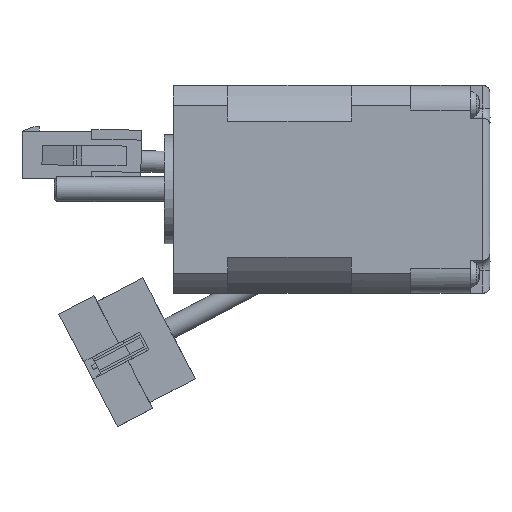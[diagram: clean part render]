
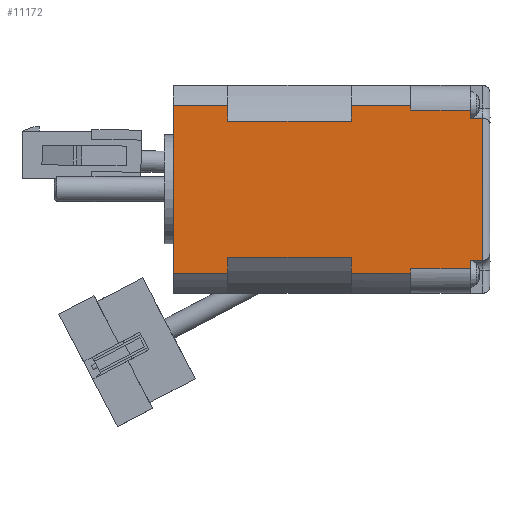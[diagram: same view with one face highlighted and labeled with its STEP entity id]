
A CAD part, front view. The second image highlights one B-rep face of the part: STEP entity #11172.
In plain terms, the highlighted planar face has unit normal (0, -1, 0).
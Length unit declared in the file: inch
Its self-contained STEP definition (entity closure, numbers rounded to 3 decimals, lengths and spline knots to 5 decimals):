
#971=FACE_OUTER_BOUND('',#1743,.T.);
#1743=EDGE_LOOP('',(#9454,#9455,#9456,#9457,#9458,#9459,#9460,#9461,#9462,
#9463,#9464,#9465,#9466,#9467,#9468,#9469,#9470,#9471,#9472,#9473));
#1934=LINE('',#15877,#2933);
#1935=LINE('',#15885,#2934);
#1975=LINE('',#16171,#2974);
#1980=LINE('',#16190,#2979);
#1984=LINE('',#16206,#2983);
#1989=LINE('',#16229,#2988);
#1994=LINE('',#16239,#2993);
#1996=LINE('',#16245,#2995);
#1999=LINE('',#16254,#2998);
#2000=LINE('',#16256,#2999);
#2014=LINE('',#16291,#3013);
#2016=LINE('',#16298,#3015);
#2019=LINE('',#16302,#3018);
#2178=LINE('',#16865,#3177);
#2182=LINE('',#16875,#3181);
#2206=LINE('',#17100,#3205);
#2681=LINE('',#18877,#3680);
#2683=LINE('',#18880,#3682);
#2708=LINE('',#18967,#3707);
#2709=LINE('',#18969,#3708);
#2933=VECTOR('',#12532,0.03821);
#2934=VECTOR('',#12541,0.03821);
#2974=VECTOR('',#12825,0.47244);
#2979=VECTOR('',#12846,0.47244);
#2983=VECTOR('',#12866,0.43307);
#2988=VECTOR('',#12887,0.43307);
#2993=VECTOR('',#12898,1.33626);
#2995=VECTOR('',#12906,0.12615);
#2998=VECTOR('',#12915,0.12615);
#2999=VECTOR('',#12918,0.98425);
#3013=VECTOR('',#12954,0.98425);
#3015=VECTOR('',#12962,0.12615);
#3018=VECTOR('',#12967,0.12615);
#3177=VECTOR('',#13474,0.06299);
#3181=VECTOR('',#13484,0.09843);
#3205=VECTOR('',#13624,0.06299);
#3680=VECTOR('',#15053,0.09843);
#3682=VECTOR('',#15057,1.13386);
#3707=VECTOR('',#15142,0.47244);
#3708=VECTOR('',#15145,0.47244);
#4442=VERTEX_POINT('',#15873);
#4444=VERTEX_POINT('',#15876);
#4446=VERTEX_POINT('',#15881);
#4447=VERTEX_POINT('',#15883);
#4559=VERTEX_POINT('',#16167);
#4564=VERTEX_POINT('',#16187);
#4568=VERTEX_POINT('',#16203);
#4569=VERTEX_POINT('',#16205);
#4578=VERTEX_POINT('',#16227);
#4579=VERTEX_POINT('',#16228);
#4582=VERTEX_POINT('',#16244);
#4584=VERTEX_POINT('',#16250);
#4594=VERTEX_POINT('',#16289);
#4595=VERTEX_POINT('',#16290);
#4728=VERTEX_POINT('',#16862);
#4729=VERTEX_POINT('',#16864);
#4732=VERTEX_POINT('',#16874);
#4776=VERTEX_POINT('',#17097);
#4777=VERTEX_POINT('',#17099);
#5238=VERTEX_POINT('',#18785);
#5490=EDGE_CURVE('',#4444,#4442,#1934,.T.);
#5494=EDGE_CURVE('',#4446,#4447,#1935,.T.);
#5620=EDGE_CURVE('',#4559,#4444,#1975,.T.);
#5630=EDGE_CURVE('',#4564,#4447,#1980,.T.);
#5636=EDGE_CURVE('',#4569,#4568,#1984,.T.);
#5646=EDGE_CURVE('',#4578,#4579,#1989,.T.);
#5653=EDGE_CURVE('',#4569,#4578,#1994,.T.);
#5655=EDGE_CURVE('',#4582,#4564,#1996,.T.);
#5660=EDGE_CURVE('',#4584,#4579,#1999,.T.);
#5661=EDGE_CURVE('',#4584,#4582,#2000,.T.);
#5679=EDGE_CURVE('',#4594,#4595,#2014,.T.);
#5683=EDGE_CURVE('',#4559,#4594,#2016,.T.);
#5686=EDGE_CURVE('',#4568,#4595,#2019,.T.);
#5920=EDGE_CURVE('',#4729,#4728,#2178,.T.);
#5925=EDGE_CURVE('',#4732,#4729,#2182,.T.);
#5992=EDGE_CURVE('',#4777,#4776,#2206,.T.);
#6689=EDGE_CURVE('',#4776,#5238,#2681,.T.);
#6691=EDGE_CURVE('',#5238,#4732,#2683,.T.);
#6731=EDGE_CURVE('',#4728,#4446,#2708,.T.);
#6732=EDGE_CURVE('',#4777,#4442,#2709,.T.);
#9454=ORIENTED_EDGE('',*,*,#6732,.F.);
#9455=ORIENTED_EDGE('',*,*,#5992,.T.);
#9456=ORIENTED_EDGE('',*,*,#6689,.T.);
#9457=ORIENTED_EDGE('',*,*,#6691,.T.);
#9458=ORIENTED_EDGE('',*,*,#5925,.T.);
#9459=ORIENTED_EDGE('',*,*,#5920,.T.);
#9460=ORIENTED_EDGE('',*,*,#6731,.T.);
#9461=ORIENTED_EDGE('',*,*,#5494,.T.);
#9462=ORIENTED_EDGE('',*,*,#5630,.F.);
#9463=ORIENTED_EDGE('',*,*,#5655,.F.);
#9464=ORIENTED_EDGE('',*,*,#5661,.F.);
#9465=ORIENTED_EDGE('',*,*,#5660,.T.);
#9466=ORIENTED_EDGE('',*,*,#5646,.F.);
#9467=ORIENTED_EDGE('',*,*,#5653,.F.);
#9468=ORIENTED_EDGE('',*,*,#5636,.T.);
#9469=ORIENTED_EDGE('',*,*,#5686,.T.);
#9470=ORIENTED_EDGE('',*,*,#5679,.F.);
#9471=ORIENTED_EDGE('',*,*,#5683,.F.);
#9472=ORIENTED_EDGE('',*,*,#5620,.T.);
#9473=ORIENTED_EDGE('',*,*,#5490,.T.);
#10569=PLANE('',#12249);
#11172=ADVANCED_FACE('',(#971),#10569,.T.);
#12249=AXIS2_PLACEMENT_3D('',#18968,#15143,#15144);
#12532=DIRECTION('',(0.,0.,1.));
#12541=DIRECTION('',(0.,0.,1.));
#12825=DIRECTION('',(1.,0.,0.));
#12846=DIRECTION('',(1.,0.,0.));
#12866=DIRECTION('',(1.,0.,0.));
#12887=DIRECTION('',(1.,0.,0.));
#12898=DIRECTION('',(0.,0.,1.));
#12906=DIRECTION('',(0.,0.,1.));
#12915=DIRECTION('',(0.,0.,1.));
#12918=DIRECTION('',(1.,0.,0.));
#12954=DIRECTION('',(-1.,0.,0.));
#12962=DIRECTION('',(0.,0.,1.));
#12967=DIRECTION('',(0.,0.,1.));
#13474=DIRECTION('',(0.,0.,1.));
#13484=DIRECTION('',(-1.,0.,0.));
#13624=DIRECTION('',(0.,0.,1.));
#15053=DIRECTION('',(1.,0.,0.));
#15057=DIRECTION('',(0.,0.,1.));
#15142=DIRECTION('',(-1.,0.,0.));
#15143=DIRECTION('center_axis',(0.,-1.,0.));
#15144=DIRECTION('ref_axis',(0.,0.,-1.));
#15145=DIRECTION('',(-1.,0.,0.));
#15873=CARTESIAN_POINT('',(1.78526,1.02042,0.19685));
#15876=CARTESIAN_POINT('',(1.78526,1.02042,0.15864));
#15877=CARTESIAN_POINT('',(1.78526,1.02042,0.15864));
#15881=CARTESIAN_POINT('',(1.78526,1.02042,1.45669));
#15883=CARTESIAN_POINT('',(1.78526,1.02042,1.4949));
#15885=CARTESIAN_POINT('',(1.78526,1.02042,0.15864));
#16167=CARTESIAN_POINT('',(1.31282,1.02042,0.15864));
#16171=CARTESIAN_POINT('',(-0.1045,1.02042,0.15864));
#16187=CARTESIAN_POINT('',(1.31282,1.02042,1.4949));
#16190=CARTESIAN_POINT('',(-0.1045,1.02042,1.4949));
#16203=CARTESIAN_POINT('',(0.32857,1.02042,0.15864));
#16205=CARTESIAN_POINT('',(-0.1045,1.02042,0.15864));
#16206=CARTESIAN_POINT('',(-0.1045,1.02042,0.15864));
#16227=CARTESIAN_POINT('',(-0.1045,1.02042,1.4949));
#16228=CARTESIAN_POINT('',(0.32857,1.02042,1.4949));
#16229=CARTESIAN_POINT('',(-0.1045,1.02042,1.4949));
#16239=CARTESIAN_POINT('',(-0.1045,1.02042,0.15864));
#16244=CARTESIAN_POINT('',(1.31282,1.02042,1.36875));
#16245=CARTESIAN_POINT('',(1.31282,1.02042,0.15864));
#16250=CARTESIAN_POINT('',(0.32857,1.02042,1.36875));
#16254=CARTESIAN_POINT('',(0.32857,1.02042,0.15864));
#16256=CARTESIAN_POINT('',(1.31282,1.02042,1.36875));
#16289=CARTESIAN_POINT('',(1.31282,1.02042,0.28479));
#16290=CARTESIAN_POINT('',(0.32857,1.02042,0.28479));
#16291=CARTESIAN_POINT('',(1.31282,1.02042,0.28479));
#16298=CARTESIAN_POINT('',(1.31282,1.02042,0.15864));
#16302=CARTESIAN_POINT('',(0.32857,1.02042,0.15864));
#16862=CARTESIAN_POINT('',(2.2577,1.02042,1.45669));
#16864=CARTESIAN_POINT('',(2.2577,1.02042,1.3937));
#16865=CARTESIAN_POINT('',(2.2577,1.02042,1.45669));
#16874=CARTESIAN_POINT('',(2.35613,1.02042,1.3937));
#16875=CARTESIAN_POINT('',(1.78526,1.02042,1.3937));
#17097=CARTESIAN_POINT('',(2.2577,1.02042,0.25984));
#17099=CARTESIAN_POINT('',(2.2577,1.02042,0.19685));
#17100=CARTESIAN_POINT('',(2.2577,1.02042,-1.39657));
#18785=CARTESIAN_POINT('',(2.35613,1.02042,0.25984));
#18877=CARTESIAN_POINT('',(1.78526,1.02042,0.25984));
#18880=CARTESIAN_POINT('',(2.35613,1.02042,-1.39657));
#18967=CARTESIAN_POINT('',(1.78526,1.02042,1.45669));
#18968=CARTESIAN_POINT('Origin',(1.78526,1.02042,-1.39657));
#18969=CARTESIAN_POINT('',(1.78526,1.02042,0.19685));
